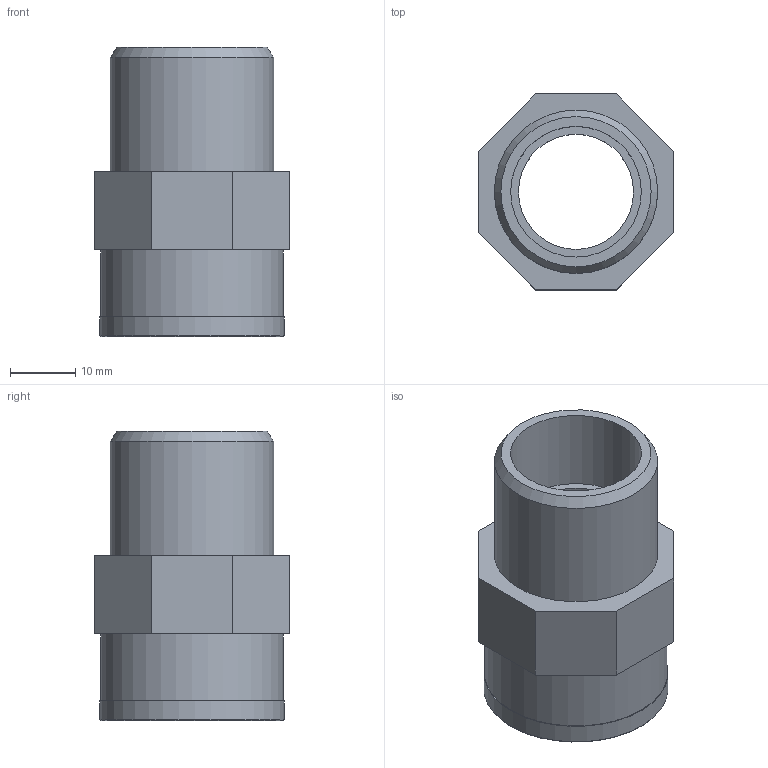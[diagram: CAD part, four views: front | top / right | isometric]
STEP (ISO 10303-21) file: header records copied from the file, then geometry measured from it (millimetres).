
FILE_DESCRIPTION(/* description */ (''),/* implementation_level */ '2;1');
FILE_NAME(/* name */ 'C:\Users\POLYPIPE\Desktop\DATASET INVENTOR\LIBRERIA EFFAST\RACCORDI 3DxWEB\RGR\3D_RGRAFR\3D_RGRAFR025B.stp',/* time_stamp */ '2018-01-19T17:30:13+01:00',/* author */ ('POLYPIPE'),/* organization */ (''),/* preprocessor_version */ 'ST-DEVELOPER v16.1',/* originating_system */ 'Autodesk Inventor 2016',/* authorisation */ '');
FILE_SCHEMA (('CONFIG_CONTROL_DESIGN'));
Length unit declared in the file: centimetre
Products named in the file (1): 3D_RGRAFR025B
Bounding box: 30 x 30 x 44.25 mm (x, y, z)
Volume: 13316.7 mm3; surface area: 8175.1 mm2
Topology: 1 solids, 1 shells, 31 faces, 67 edges, 44 vertices
Faces by surface type: plane 17, cylinder 7, bspline 5, cone 1, torus 1
Full cylindrical faces by diameter (mm): 17.631 x1, 18.631 x1, 20 x1, 23 x1, 25 x1, 28 x1, 28.2 x1
Entity records: 4200 total; most frequent: CARTESIAN_POINT 3514, DIRECTION 117, ORIENTED_EDGE 112, EDGE_CURVE 56, EDGE_LOOP 48, AXIS2_PLACEMENT_3D 45, VERTEX_POINT 42, STYLED_ITEM 32
